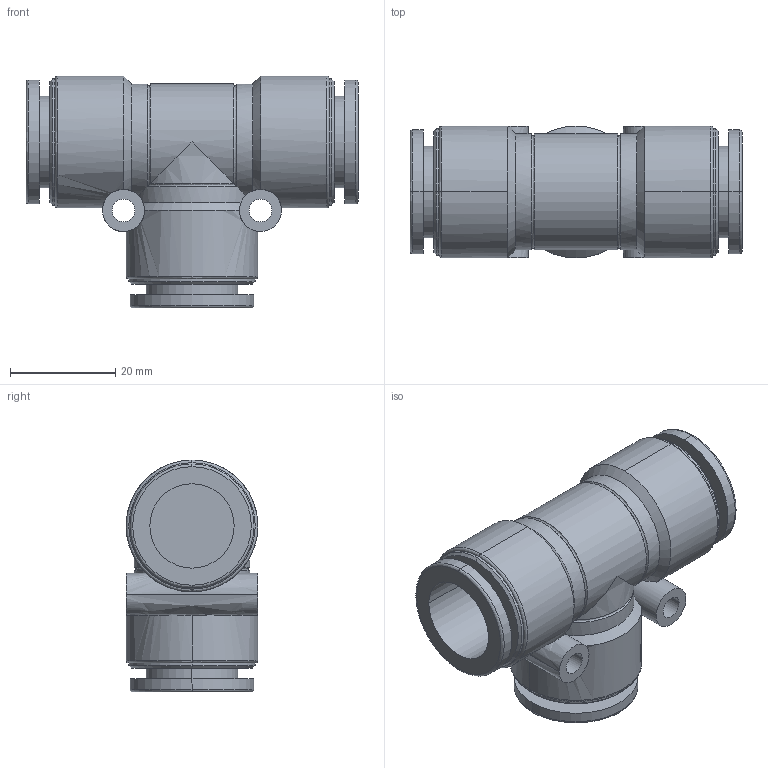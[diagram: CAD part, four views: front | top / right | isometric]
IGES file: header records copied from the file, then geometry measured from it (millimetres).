
Global section: file name: No Iges File Name specified; native system: AutoDesk Inventor R11.0; preprocessor: AutoDesk Inventor Iges Exporter R11.0; author: No Author specified; organization: No Organization specified; date: 20120321.162348; units: millimetre
Bounding box: 63 x 25 x 44 mm (x, y, z)
Volume: 23688.7 mm3; surface area: 13269.6 mm2
Topology: 1 solids, 1 shells, 87 faces, 207 edges, 131 vertices
Faces by surface type: bspline 44, cylinder 18, plane 9, torus 6, cone 5, revolution 5
